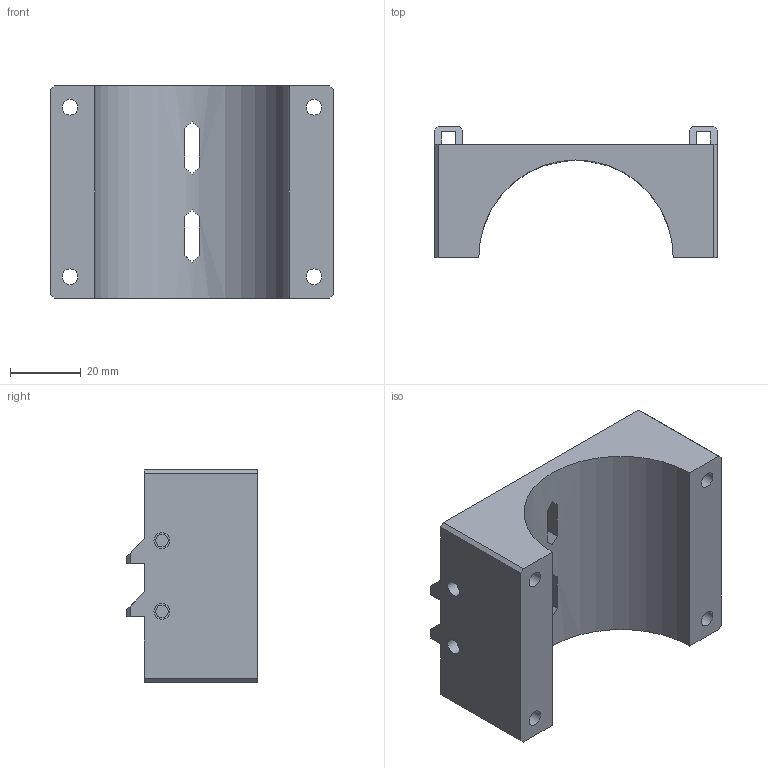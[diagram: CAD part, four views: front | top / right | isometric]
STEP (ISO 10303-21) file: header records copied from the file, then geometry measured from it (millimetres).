
FILE_DESCRIPTION(/* description */ ('Alibre Inc.'),/* implementation_level */ '2;1');
FILE_NAME(/* name */ 'export-80E8A0CA-BB22-481E-AD8C-2A3E99DD0857',/* time_stamp */ '2026-01-22T09:34:22+00:00',/* author */ (''),/* organization */ (''),/* preprocessor_version */ 'ST-DEVELOPER v17',/* originating_system */ 'Alibre',/* authorisation */ '');
FILE_SCHEMA (('CONFIG_CONTROL_DESIGN'));
Length unit declared in the file: millimetre
Bounding box: 80 x 37 x 60 mm (x, y, z)
Volume: 76108.1 mm3; surface area: 22119.8 mm2
Topology: 1 solids, 1 shells, 104 faces, 270 edges, 184 vertices
Faces by surface type: plane 79, cylinder 25
Full cylindrical faces by diameter (mm): 3.5 x8, 4.5 x12, 8 x4
Entity records: 2946 total; most frequent: CARTESIAN_POINT 495, ORIENTED_EDGE 468, DIRECTION 406, EDGE_CURVE 234, VERTEX_POINT 172, EDGE_LOOP 164, FACE_BOUND 164, VECTOR 162
